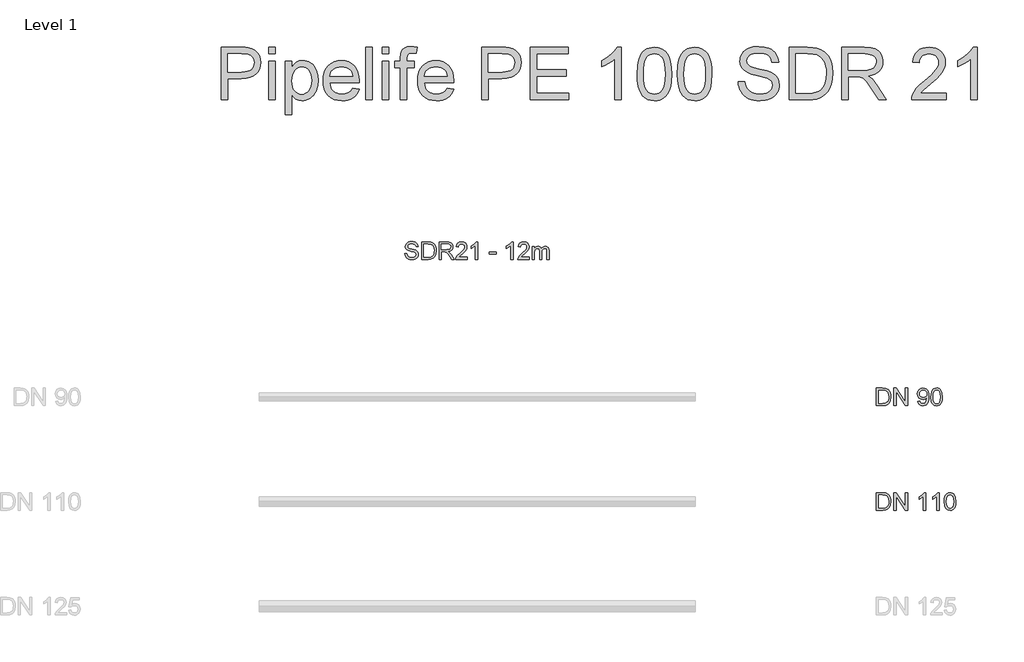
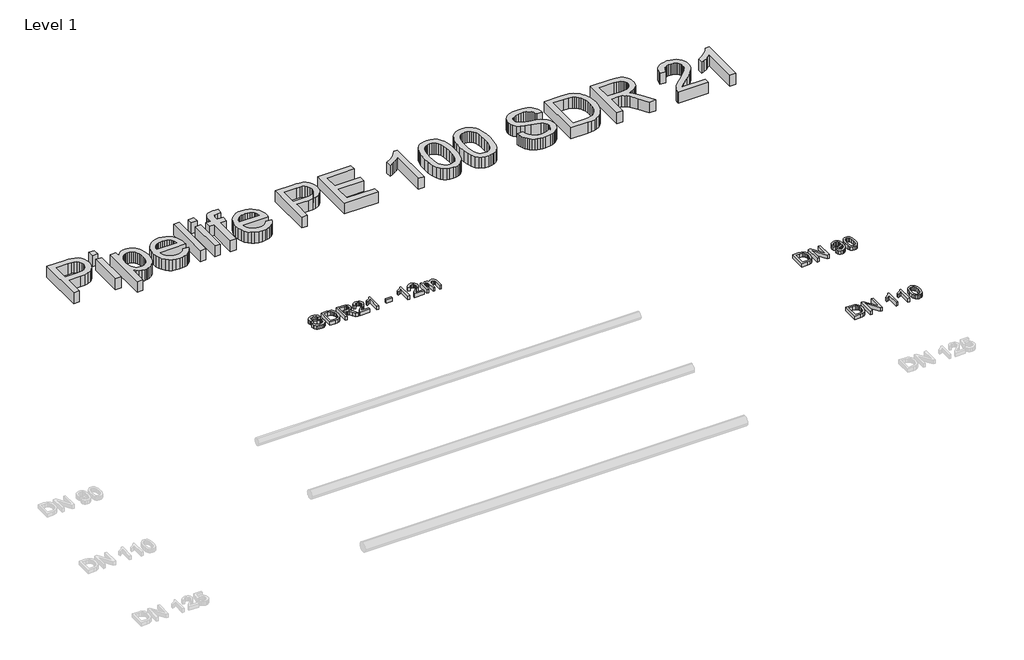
# One storey, part 10 of 26: 4 proxies.
"""IFC4 building model written with IfcOpenShell, lengths in millimetres."""

from ifc_helpers import new_model, si_unit, origin, origin_with_axes, place, context, project, spatial, polyline, outline, extrude, element, save

model = new_model("IFC4")

# Units and contexts
model_context = context("Model", 3, world=origin())
ifc_project = project(units=[si_unit("LENGTHUNIT", "METRE", prefix="MILLI")], contexts=[model_context])

# Site, building, storey
site = spatial("IfcSite", under=ifc_project)
building = spatial("IfcBuilding", under=site)
storey = spatial("IfcBuildingStorey", under=building, Name="Level 1", Elevation=0.0)

# Proxies
placement = place(None, origin())
element("IfcBuildingElementProxy", 1, Name="200mm Arial", ObjectType="200mm Arial", at=placement, inside=storey, context=model_context, shape_type="SweptSolid", body=[
    extrude(outline(polyline([(-9460.6923074, -70413.949573), (-9460.6923074, -70213.0369527), (-9391.3833395, -70213.0369527), (-9355.5271077, -70215.9309577), (-9339.5119782, -70221.5105013), (-9325.9984462, -70230.302881), (-9312.1047695, -70245.606772), (-9302.2087438, -70264.6385338), (-9296.2858437, -70287.0302846), (-9294.3115437, -70312.4141423), (-9299.6580953, -70352.9547382), (-9313.3923565, -70382.2136195), (-9331.7374053, -70400.436041), (-9355.7478369, -70410.5160077), (-9388.0478761, -70413.949573), (-9460.6923074, -70413.949573)]), holes=[polyline([(-9435.5782298, -70388.8354954), (-9391.1380848, -70388.8354954), (-9358.8135202, -70385.2057264), (-9340.1741658, -70374.9540815), (-9331.4492311, -70364.0831685), (-9324.8948002, -70350.0116822), (-9320.792916, -70332.6783089), (-9319.4256212, -70312.0217348), (-9322.1050284, -70284.6513144), (-9330.14325, -70264.4423301), (-9342.0197071, -70250.5609162), (-9356.2138207, -70242.1732067), (-9391.8247979, -70238.1510302), (-9435.5782298, -70238.1510302), (-9435.5782298, -70388.8354954)])]), origin_with_axes(), (0.0, 0.0, 1.0), 50.0),
    extrude(outline(polyline([(-9259.7796871, -70413.949573), (-9259.7796871, -70213.0369527), (-9232.899776, -70213.0369527), (-9127.93078, -70372.2072292), (-9127.93078, -70213.0369527), (-9102.8167025, -70213.0369527), (-9102.8167025, -70413.949573), (-9129.6966136, -70413.949573), (-9234.6656095, -70254.7302454), (-9234.6656095, -70413.949573), (-9259.7796871, -70413.949573)])), origin_with_axes(), (0.0, 0.0, 1.0), 50.0),
    extrude(outline(polyline([(-8986.6640939, -70363.7214179), (-8961.5500163, -70360.5821582), (-8957.2580597, -70374.8375855), (-8950.2683018, -70384.5435388), (-8940.7524209, -70390.116951), (-8928.8820951, -70391.9747551), (-8908.5504835, -70387.1922892), (-8894.7671715, -70374.4145212), (-8886.5511402, -70352.5868562), (-8882.9213712, -70323.4506021), (-8883.068524, -70318.5455089), (-8891.7689332, -70329.1650358), (-8903.1548809, -70337.5772708), (-8916.4047641, -70343.0587125), (-8930.6969797, -70344.8858597), (-8953.5976339, -70340.4222249), (-8972.6600526, -70327.0313202), (-8985.5175283, -70306.3440894), (-8989.8033535, -70279.9914758), (-8985.3090618, -70252.7682081), (-8971.8261867, -70231.4310524), (-8951.5742829, -70217.6354776), (-8926.772905, -70213.0369527), (-8908.0415801, -70215.6611776), (-8890.9902496, -70223.5338523), (-8876.728691, -70236.2625693), (-8866.3666814, -70253.4549212), (-8860.0575052, -70277.2200981), (-8857.9544465, -70309.6672901), (-8860.0513738, -70344.070388), (-8866.342156, -70370.6621249), (-8876.7716105, -70390.6442486), (-8891.2845552, -70405.2185069), (-8909.2555907, -70414.1212512), (-8930.0593175, -70417.0888326), (-8951.5313633, -70413.5878223), (-8968.6624016, -70403.0847914), (-8980.6430919, -70386.2419274), (-8986.6640939, -70363.7214179)]), holes=[polyline([(-8883.068524, -70279.4028646), (-8885.778588, -70262.3821909), (-8893.9087801, -70249.2855919), (-8906.5271326, -70240.9346706), (-8922.7016776, -70238.1510302), (-8939.4770966, -70241.1492685), (-8952.9170522, -70250.1439832), (-8961.74622, -70263.9089012), (-8964.689276, -70281.2177491), (-8961.9056356, -70296.7362379), (-8953.5547143, -70309.0541534), (-8940.4458525, -70317.092375), (-8923.3883907, -70319.7717822), (-8907.3426043, -70317.092375), (-8894.4238149, -70309.0541534), (-8885.9073467, -70296.2825168), (-8883.068524, -70279.4028646)])]), origin_with_axes(), (0.0, 0.0, 1.0), 50.0),
    extrude(outline(polyline([(-8835.9796286, -70315.1119436), (-8834.1340873, -70282.9529258), (-8828.5974633, -70257.3054194), (-8819.4249388, -70237.7770168), (-8806.6716963, -70223.9753106), (-8790.2457653, -70215.7715422), (-8770.0551751, -70213.0369527), (-8754.5796058, -70214.6556334), (-8740.7227173, -70219.5116758), (-8729.1344345, -70227.4150073), (-8720.4646821, -70238.1755557), (-8708.6924583, -70267.9004209), (-8704.1307216, -70315.1119436), (-8705.9578688, -70347.0870203), (-8711.4393105, -70372.6732131), (-8720.5566526, -70392.2200098), (-8733.291501, -70406.0768983), (-8749.7542203, -70414.335849), (-8770.0551751, -70417.0888326), (-8796.1502713, -70412.3063667), (-8815.9668481, -70397.9589689), (-8824.7224396, -70382.8298218), (-8830.9764335, -70363.9789353), (-8835.9796286, -70315.1119436)]), holes=[polyline([(-8810.8655511, -70315.0628927), (-8807.9224951, -70354.5672876), (-8799.0933272, -70377.4311536), (-8785.9476773, -70388.3388547), (-8770.0551751, -70391.9747551), (-8754.1626729, -70388.326592), (-8741.0170229, -70377.3821026), (-8732.1878551, -70354.5059739), (-8729.2447991, -70315.0628927), (-8732.0897532, -70276.4475459), (-8740.6246155, -70253.4058703), (-8753.74574, -70241.9647402), (-8770.3494807, -70238.1510302), (-8786.0703046, -70241.5110191), (-8798.7009198, -70251.5909857), (-8807.8243933, -70276.0674012), (-8810.8655511, -70315.0628927)])]), origin_with_axes(), (0.0, 0.0, 1.0), 50.0),
])
element("IfcBuildingElementProxy", 2, Name="200mm Arial", ObjectType="200mm Arial", at=placement, inside=storey, context=model_context, shape_type="SweptSolid", body=[
    extrude(outline(polyline([(-9460.6923074, -71613.949573), (-9460.6923074, -71413.0369527), (-9391.3833395, -71413.0369527), (-9355.5271077, -71415.9309577), (-9339.5119782, -71421.5105013), (-9325.9984462, -71430.302881), (-9312.1047695, -71445.606772), (-9302.2087438, -71464.6385338), (-9296.2858437, -71487.0302846), (-9294.3115437, -71512.4141423), (-9299.6580953, -71552.9547382), (-9313.3923565, -71582.2136195), (-9331.7374053, -71600.436041), (-9355.7478369, -71610.5160077), (-9388.0478761, -71613.949573), (-9460.6923074, -71613.949573)]), holes=[polyline([(-9435.5782298, -71588.8354954), (-9391.1380848, -71588.8354954), (-9358.8135202, -71585.2057264), (-9340.1741658, -71574.9540815), (-9331.4492311, -71564.0831685), (-9324.8948002, -71550.0116822), (-9320.792916, -71532.6783089), (-9319.4256212, -71512.0217348), (-9322.1050284, -71484.6513144), (-9330.14325, -71464.4423301), (-9342.0197071, -71450.5609162), (-9356.2138207, -71442.1732067), (-9391.8247979, -71438.1510302), (-9435.5782298, -71438.1510302), (-9435.5782298, -71588.8354954)])]), origin_with_axes(), (0.0, 0.0, 1.0), 50.0),
    extrude(outline(polyline([(-9259.7796871, -71613.949573), (-9259.7796871, -71413.0369527), (-9232.899776, -71413.0369527), (-9127.93078, -71572.2072292), (-9127.93078, -71413.0369527), (-9102.8167025, -71413.0369527), (-9102.8167025, -71613.949573), (-9129.6966136, -71613.949573), (-9234.6656095, -71454.7302454), (-9234.6656095, -71613.949573), (-9259.7796871, -71613.949573)])), origin_with_axes(), (0.0, 0.0, 1.0), 50.0),
    extrude(outline(polyline([(-8895.6255628, -71613.949573), (-8920.7396403, -71613.949573), (-8920.7396403, -71457.3789958), (-8944.5293427, -71474.3260931), (-8970.9677954, -71487.0057592), (-8970.9677954, -71463.2651077), (-8934.1550704, -71439.769711), (-8920.684458, -71426.1948653), (-8911.8123706, -71413.0369527), (-8895.6255628, -71413.0369527), (-8895.6255628, -71613.949573)])), origin_with_axes(), (0.0, 0.0, 1.0), 50.0),
    extrude(outline(polyline([(-8741.8018379, -71613.949573), (-8766.9159154, -71613.949573), (-8766.9159154, -71457.3789958), (-8790.7056178, -71474.3260931), (-8817.1440705, -71487.0057592), (-8817.1440705, -71463.2651077), (-8780.3313455, -71439.769711), (-8766.8607331, -71426.1948653), (-8757.9886457, -71413.0369527), (-8741.8018379, -71413.0369527), (-8741.8018379, -71613.949573)])), origin_with_axes(), (0.0, 0.0, 1.0), 50.0),
    extrude(outline(polyline([(-8682.1559037, -71515.1119436), (-8680.3103624, -71482.9529258), (-8674.7737383, -71457.3054194), (-8665.6012139, -71437.7770168), (-8652.8479714, -71423.9753106), (-8636.4220403, -71415.7715422), (-8616.2314502, -71413.0369527), (-8600.7558809, -71414.6556334), (-8586.8989924, -71419.5116758), (-8575.3107096, -71427.4150073), (-8566.6409572, -71438.1755557), (-8554.8687334, -71467.9004209), (-8550.3069966, -71515.1119436), (-8552.1341439, -71547.0870203), (-8557.6155856, -71572.6732131), (-8566.7329277, -71592.2200098), (-8579.4677761, -71606.0768983), (-8595.9304954, -71614.335849), (-8616.2314502, -71617.0888326), (-8642.3265464, -71612.3063667), (-8662.1431232, -71597.9589689), (-8670.8987147, -71582.8298218), (-8677.1527086, -71563.9789353), (-8682.1559037, -71515.1119436)]), holes=[polyline([(-8657.0418262, -71515.0628927), (-8654.0987702, -71554.5672876), (-8645.2696023, -71577.4311536), (-8632.1239524, -71588.3388547), (-8616.2314502, -71591.9747551), (-8600.338948, -71588.326592), (-8587.193298, -71577.3821026), (-8578.3641301, -71554.5059739), (-8575.4210742, -71515.0628927), (-8578.2660283, -71476.4475459), (-8586.8008906, -71453.4058703), (-8599.9220151, -71441.9647402), (-8616.5257558, -71438.1510302), (-8632.2465797, -71441.5110191), (-8644.8771949, -71451.5909857), (-8654.0006683, -71476.0674012), (-8657.0418262, -71515.0628927)])]), origin_with_axes(), (0.0, 0.0, 1.0), 50.0),
])
element("IfcBuildingElementProxy", 3, Name="200mm Arial", ObjectType="200mm Arial", at=placement, inside=storey, context=model_context, shape_type="SweptSolid", body=[
    extrude(outline(polyline([(-14863.0013138, -68668.9871574), (-14837.8872363, -68668.9871574), (-14829.7938324, -68694.1257604), (-14821.6636403, -68703.016242), (-14810.0263065, -68710.0182626), (-14795.801536, -68714.5616053), (-14779.9090338, -68716.0760528), (-14753.6667848, -68711.4897906), (-14736.7196876, -68698.8837009), (-14731.1524067, -68682.0347055), (-14735.321736, -68666.3629325), (-14741.6738318, -68660.1641209), (-14752.3914606, -68654.9585907), (-14788.9589309, -68645.3691333), (-14828.3223044, -68632.9837728), (-14840.8241609, -68624.5347497), (-14849.6839856, -68614.2953675), (-14854.9630922, -68602.4863554), (-14856.7227944, -68589.3284427), (-14854.5461593, -68574.6192943), (-14848.0162539, -68560.9034272), (-14837.3047564, -68549.2783562), (-14822.5833453, -68540.8415958), (-14804.9127468, -68535.7096419), (-14785.3536873, -68533.9989907), (-14764.1636844, -68535.7893497), (-14745.6224319, -68541.1604268), (-14730.3921173, -68550.0018575), (-14719.1349282, -68562.203277), (-14712.0102802, -68577.0043959), (-14709.1775889, -68593.6449248), (-14734.2916664, -68593.6449248), (-14738.9024541, -68578.6598649), (-14748.5164369, -68567.8441342), (-14763.538285, -68561.2958347), (-14784.3726687, -68559.1130682), (-14805.6975617, -68561.2713092), (-14820.3270024, -68567.7460324), (-14828.7882882, -68577.274176), (-14831.6087169, -68588.5926788), (-14829.6098914, -68598.2434498), (-14823.6134148, -68606.0057599), (-14809.4376953, -68612.9464668), (-14782.6068351, -68620.0343266), (-14738.1666901, -68632.6404163), (-14723.8499491, -68641.7516271), (-14713.861953, -68652.9965534), (-14707.9942351, -68666.2525679), (-14706.0383292, -68681.3970434), (-14708.2885407, -68696.878744), (-14715.0391753, -68711.4407397), (-14726.0143215, -68723.973253), (-14740.9380678, -68733.3665066), (-14758.8845778, -68739.2342244), (-14778.9280152, -68741.1901304), (-14803.5331893, -68739.0809402), (-14823.7850931, -68732.7533699), (-14839.9167186, -68722.1828939), (-14852.1610577, -68707.3449868), (-14860.0214696, -68689.2697181), (-14863.0013138, -68668.9871574)])), origin_with_axes(), (0.0, 0.0, 1.0), 50.0),
    extrude(outline(polyline([(-14668.3672129, -68738.0508707), (-14668.3672129, -68537.1382504), (-14599.058245, -68537.1382504), (-14563.2020132, -68540.0322554), (-14547.1868837, -68545.611799), (-14533.6733517, -68554.4041787), (-14519.779675, -68569.7080697), (-14509.8836494, -68588.7398315), (-14503.9607492, -68611.1315823), (-14501.9864492, -68636.51544), (-14507.3330009, -68677.0560359), (-14521.067262, -68706.3149172), (-14539.4123108, -68724.5373387), (-14563.4227424, -68734.6173054), (-14595.7227816, -68738.0508707), (-14668.3672129, -68738.0508707)]), holes=[polyline([(-14643.2531353, -68712.9367931), (-14598.8129903, -68712.9367931), (-14566.4884257, -68709.3070241), (-14547.8490713, -68699.0553792), (-14539.1241366, -68688.1844662), (-14532.5697057, -68674.1129799), (-14528.4678215, -68656.7796066), (-14527.1005267, -68636.1230325), (-14529.7799339, -68608.7526121), (-14537.8181555, -68588.5436278), (-14549.6946126, -68574.6622139), (-14563.8887263, -68566.2745044), (-14599.4997034, -68562.2523279), (-14643.2531353, -68562.2523279), (-14643.2531353, -68712.9367931)])]), origin_with_axes(), (0.0, 0.0, 1.0), 50.0),
    extrude(outline(polyline([(-14467.4545926, -68738.0508707), (-14467.4545926, -68537.1382504), (-14380.8796964, -68537.1382504), (-14357.6111602, -68538.4932824), (-14340.682457, -68542.5583784), (-14328.3093593, -68550.0631711), (-14318.7076392, -68561.7372931), (-14312.5456158, -68576.2134496), (-14310.491608, -68592.1243459), (-14313.8945164, -68611.9163972), (-14324.1032418, -68628.3239342), (-14341.4243524, -68640.3536755), (-14366.1644166, -68647.0123396), (-14351.8905952, -68657.7544938), (-14331.5344581, -68683.6043354), (-14298.0326711, -68738.0508707), (-14327.217976, -68738.0508707), (-14353.3621231, -68696.4066288), (-14372.2467322, -68668.8400046), (-14385.5150095, -68655.816982), (-14397.4589116, -68651.0345161), (-14412.0270386, -68650.1515993), (-14442.340515, -68650.1515993), (-14442.340515, -68738.0508707), (-14467.4545926, -68738.0508707)]), holes=[polyline([(-14442.340515, -68625.0375217), (-14386.1281462, -68625.0375217), (-14357.457876, -68621.4813291), (-14348.0278342, -68616.8582787), (-14341.1729664, -68610.1015127), (-14335.6056855, -68593.0563136), (-14338.2605672, -68580.8058432), (-14346.2252124, -68570.934343), (-14359.9288168, -68564.4228317), (-14379.8005759, -68562.2523279), (-14442.340515, -68562.2523279), (-14442.340515, -68625.0375217)])]), origin_with_axes(), (0.0, 0.0, 1.0), 50.0),
    extrude(outline(polyline([(-14147.250104, -68712.9367931), (-14147.250104, -68738.0508707), (-14279.0990111, -68738.0508707), (-14276.4012098, -68720.7358914), (-14261.1463697, -68694.0767095), (-14229.7047218, -68664.9649809), (-14186.3436973, -68623.1245354), (-14178.2135052, -68608.7035612), (-14175.5034412, -68594.6749944), (-14178.0602211, -68582.0995615), (-14185.7305607, -68571.6455815), (-14197.5211786, -68564.6006413), (-14212.4387935, -68562.2523279), (-14228.1044352, -68564.545459), (-14240.2751978, -68571.4248523), (-14248.1294784, -68582.3509476), (-14250.8456738, -68596.7841845), (-14275.9597514, -68593.6449248), (-14269.8713043, -68569.3524504), (-14256.7072603, -68551.6082755), (-14237.1543322, -68540.7557566), (-14211.8992333, -68537.1382504), (-14186.4601933, -68541.1604268), (-14166.9440535, -68553.2269563), (-14154.5280361, -68571.253174), (-14150.3893637, -68593.1544155), (-14154.8529985, -68616.9686433), (-14169.6909057, -68641.5922115), (-14205.6697648, -68676.0014408), (-14234.5607642, -68700.1590252), (-14245.8915296, -68712.9367931), (-14147.250104, -68712.9367931)])), origin_with_axes(), (0.0, 0.0, 1.0), 50.0),
    extrude(outline(polyline([(-14027.9582357, -68738.0508707), (-14053.0723132, -68738.0508707), (-14053.0723132, -68581.4802935), (-14076.8620156, -68598.4273908), (-14103.3004683, -68611.1070569), (-14103.3004683, -68587.3664054), (-14066.4877433, -68563.8710087), (-14053.0171309, -68550.2961631), (-14044.1450435, -68537.1382504), (-14027.9582357, -68537.1382504), (-14027.9582357, -68738.0508707)])), origin_with_axes(), (0.0, 0.0, 1.0), 50.0),
    extrude(outline(polyline([(-13896.1093286, -68678.4049365), (-13896.1093286, -68653.290859), (-13817.6278363, -68653.290859), (-13817.6278363, -68678.4049365), (-13896.1093286, -68678.4049365)])), origin_with_axes(), (0.0, 0.0, 1.0), 50.0),
    extrude(outline(polyline([(-13622.9937354, -68738.0508707), (-13648.1078129, -68738.0508707), (-13648.1078129, -68581.4802935), (-13671.8975153, -68598.4273908), (-13698.335968, -68611.1070569), (-13698.335968, -68587.3664054), (-13661.523243, -68563.8710087), (-13648.0526306, -68550.2961631), (-13639.1805432, -68537.1382504), (-13622.9937354, -68537.1382504), (-13622.9937354, -68738.0508707)])), origin_with_axes(), (0.0, 0.0, 1.0), 50.0),
    extrude(outline(polyline([(-13434.6381539, -68712.9367931), (-13434.6381539, -68738.0508707), (-13566.4870609, -68738.0508707), (-13563.7892596, -68720.7358914), (-13548.5344196, -68694.0767095), (-13517.0927717, -68664.9649809), (-13473.7317472, -68623.1245354), (-13465.6015551, -68608.7035612), (-13462.8914911, -68594.6749944), (-13465.448271, -68582.0995615), (-13473.1186106, -68571.6455815), (-13484.9092285, -68564.6006413), (-13499.8268434, -68562.2523279), (-13515.492485, -68564.545459), (-13527.6632477, -68571.4248523), (-13535.5175283, -68582.3509476), (-13538.2337237, -68596.7841845), (-13563.3478012, -68593.6449248), (-13557.2593542, -68569.3524504), (-13544.0953102, -68551.6082755), (-13524.5423821, -68540.7557566), (-13499.2872831, -68537.1382504), (-13473.8482432, -68541.1604268), (-13454.3321033, -68553.2269563), (-13441.916086, -68571.253174), (-13437.7774135, -68593.1544155), (-13442.2410484, -68616.9686433), (-13457.0789556, -68641.5922115), (-13493.0578147, -68676.0014408), (-13521.948814, -68700.1590252), (-13533.2795795, -68712.9367931), (-13434.6381539, -68712.9367931)])), origin_with_axes(), (0.0, 0.0, 1.0), 50.0),
    extrude(outline(polyline([(-13403.2455569, -68738.0508707), (-13403.2455569, -68590.5056651), (-13378.1314794, -68590.5056651), (-13378.1314794, -68614.7858768), (-13370.5776358, -68603.632921), (-13360.8655511, -68594.8957236), (-13349.3263192, -68589.248735), (-13336.2910338, -68587.3664054), (-13322.3237807, -68589.2855232), (-13311.1279053, -68595.0428764), (-13302.7647213, -68604.2583204), (-13297.2955423, -68616.5517104), (-13288.141412, -68603.7831395), (-13277.6996947, -68594.6627317), (-13265.9703904, -68589.190487), (-13252.9534992, -68587.3664054), (-13234.0750215, -68590.4014319), (-13220.1138997, -68599.5065113), (-13211.4870669, -68614.9268982), (-13208.611456, -68636.9078475), (-13208.611456, -68738.0508707), (-13233.7255336, -68738.0508707), (-13233.7255336, -68647.6990526), (-13236.0554529, -68626.7297789), (-13244.4922133, -68616.4045576), (-13258.8396111, -68612.480483), (-13272.4451135, -68614.9943433), (-13283.5367557, -68622.5359242), (-13290.9127897, -68635.6202605), (-13293.3714677, -68654.762387), (-13293.3714677, -68738.0508707), (-13318.4855452, -68738.0508707), (-13318.4855452, -68644.9031495), (-13319.9386791, -68630.7029045), (-13324.2980808, -68620.5738869), (-13331.9684204, -68614.5038339), (-13343.3543681, -68612.480483), (-13361.9446716, -68617.8760856), (-13369.3023115, -68624.5224869), (-13374.3055066, -68633.6704859), (-13378.1314794, -68663.6406058), (-13378.1314794, -68738.0508707), (-13403.2455569, -68738.0508707)])), origin_with_axes(), (0.0, 0.0, 1.0), 50.0),
])
element("IfcBuildingElementProxy", 4, Name="600mm Arial", ObjectType="600mm Arial", at=placement, inside=storey, context=model_context, shape_type="SweptSolid", body=[
    extrude(outline(polyline([(-16966.7426717, -66909.5373902), (-16966.7426717, -66306.7995293), (-16743.3647242, -66306.7995293), (-16691.3462101, -66308.2342691), (-16653.3072118, -66312.5384884), (-16613.152892, -66323.2622486), (-16580.0986947, -66340.7182492), (-16553.4824324, -66365.6974367), (-16532.6419174, -66398.9907573), (-16519.1774363, -66438.2621602), (-16514.689276, -66481.175595), (-16517.7197039, -66518.1753266), (-16526.8109877, -66552.2136083), (-16541.9631274, -66583.2904398), (-16563.176123, -66611.4058213), (-16592.2985814, -66634.7111457), (-16631.1791098, -66651.357806), (-16679.8177081, -66661.3458021), (-16738.2143763, -66664.6751342), (-16891.4004391, -66664.6751342), (-16891.4004391, -66909.5373902), (-16966.7426717, -66909.5373902)]), holes=[polyline([(-16891.4004391, -66589.3329016), (-16733.7997923, -66589.3329016), (-16697.5634158, -66587.6038562), (-16666.992422, -66582.4167201), (-16642.0868109, -66573.7714932), (-16622.8465826, -66561.6681755), (-16608.4899877, -66546.4286639), (-16598.2352771, -66528.374855), (-16592.0824507, -66507.5067488), (-16590.0315086, -66483.8243453), (-16594.8691569, -66449.9792018), (-16609.3821016, -66421.431559), (-16631.767721, -66399.9472504), (-16660.2233933, -66387.2921098), (-16689.2860709, -66383.4293489), (-16735.5656259, -66382.1417619), (-16891.4004391, -66382.1417619), (-16891.4004391, -66589.3329016)])]), origin_with_axes(), (0.0, 0.0, 1.0), 150.0),
    extrude(outline(polyline([(-16420.5114852, -66909.5373902), (-16420.5114852, -66466.9017736), (-16345.1692526, -66466.9017736), (-16345.1692526, -66909.5373902), (-16420.5114852, -66909.5373902)])), origin_with_axes(), (0.0, 0.0, 1.0), 150.0),
    extrude(outline(polyline([(-16420.5114852, -66382.1417619), (-16420.5114852, -66306.7995293), (-16345.1692526, -66306.7995293), (-16345.1692526, -66382.1417619), (-16420.5114852, -66382.1417619)])), origin_with_axes(), (0.0, 0.0, 1.0), 150.0),
    extrude(outline(polyline([(-16232.1559037, -67079.0574135), (-16232.1559037, -66466.9017736), (-16156.8136711, -66466.9017736), (-16156.8136711, -66540.7724782), (-16132.2391538, -66504.3337666), (-16104.7215806, -66478.3061154), (-16072.6422706, -66462.6895247), (-16034.3825431, -66457.4839945), (-16008.1065716, -66459.3050104), (-15983.4308868, -66464.768058), (-15960.3554886, -66473.8731374), (-15938.8803772, -66486.6202485), (-15919.4746019, -66502.6782976), (-15902.6072124, -66521.7161909), (-15888.2782087, -66543.7339283), (-15876.4875908, -66568.7315098), (-15860.7054532, -66624.2449029), (-15855.4447407, -66684.8350675), (-15861.3860349, -66749.269599), (-15868.8126527, -66778.9346834), (-15879.2099175, -66806.8983135), (-15892.4352753, -66832.429324), (-15908.3461716, -66854.7965493), (-15926.9426064, -66873.9999894), (-15948.2245798, -66890.0396444), (-15971.1482267, -66902.6901865), (-15994.6696817, -66911.726288), (-16018.788945, -66917.1479489), (-16043.5060166, -66918.9551692), (-16078.1421064, -66914.117521), (-16109.0625881, -66899.6045763), (-16135.5316977, -66877.6972035), (-16156.8136711, -66850.6762709), (-16156.8136711, -67079.0574135), (-16232.1559037, -67079.0574135)]), holes=[polyline([(-16156.8136711, -66691.751249), (-16154.7765246, -66728.0612019), (-16148.6650849, -66759.2943833), (-16138.4793522, -66785.4507932), (-16124.2193263, -66806.5304315), (-16107.0530327, -66822.7540275), (-16088.1484967, -66834.3423104), (-16067.5057182, -66841.2952801), (-16045.1246974, -66843.6129366), (-16022.4217797, -66841.2125066), (-16001.4019222, -66834.0112166), (-15982.0651249, -66822.0090665), (-15964.4113876, -66805.2060563), (-15949.7007063, -66783.3630629), (-15939.1930769, -66756.2409628), (-15932.8884992, -66723.8397561), (-15930.7869733, -66686.1594427), (-15932.8379154, -66650.1621895), (-15938.9907418, -66618.9841904), (-15949.2454524, -66592.6254454), (-15963.6020472, -66571.0859546), (-15980.8097276, -66554.3473238), (-15999.6176946, -66542.391159), (-16020.0259482, -66535.2174601), (-16042.0344886, -66532.8262271), (-16063.9740511, -66535.3692114), (-16084.6168295, -66542.9981643), (-16103.962824, -66555.7130857), (-16122.0120344, -66573.5139758), (-16137.2377504, -66596.1617111), (-16148.1132619, -66623.4171684), (-16154.6385688, -66655.2803477), (-16156.8136711, -66691.751249)])]), origin_with_axes(), (0.0, 0.0, 1.0), 150.0),
    extrude(outline(polyline([(-15460.7809362, -66777.6884831), (-15386.9102316, -66787.1062622), (-15398.2363985, -66816.6931716), (-15413.5264939, -66842.766808), (-15432.7805179, -66865.3271714), (-15455.9984703, -66884.3742617), (-15482.9412279, -66899.5034087), (-15513.3696674, -66910.3099424), (-15547.2837889, -66916.7938625), (-15584.6835922, -66918.9551692), (-15631.4321967, -66915.2257655), (-15673.0856356, -66904.0375543), (-15709.6439089, -66885.3905357), (-15741.1070165, -66859.2847096), (-15766.4081008, -66826.446643), (-15784.4803038, -66787.6029029), (-15795.3236256, -66742.7534891), (-15798.9380662, -66691.8984018), (-15795.2868374, -66639.3188677), (-15784.333151, -66592.9749333), (-15766.077007, -66552.8665988), (-15740.5184054, -66518.9938641), (-15709.1380712, -66492.0832961), (-15673.4167294, -66472.8614619), (-15633.3543802, -66461.3283613), (-15588.9510233, -66457.4839945), (-15545.9778078, -66461.3191643), (-15507.1156735, -66472.8246737), (-15472.3646205, -66492.0005227), (-15441.7246489, -66518.8467113), (-15416.7132717, -66552.6458696), (-15398.8480023, -66592.6806277), (-15388.1288407, -66638.9509857), (-15384.5557868, -66691.4569434), (-15384.9972452, -66711.7640296), (-15723.5958336, -66711.7640296), (-15719.2318334, -66741.8291856), (-15710.5544168, -66768.1603394), (-15697.5635839, -66790.757491), (-15680.2593345, -66809.6206403), (-15659.598162, -66824.4922699), (-15636.5365594, -66835.1148625), (-15611.0745268, -66841.4884181), (-15583.2120642, -66843.6129366), (-15543.1129267, -66839.6765993), (-15509.3413596, -66827.8675872), (-15481.8973627, -66807.4501365), (-15460.7809362, -66777.6884831)]), holes=[polyline([(-15723.5958336, -66636.4217969), (-15459.8980194, -66636.4217969), (-15470.0883507, -66596.6169651), (-15478.8531392, -66580.9635862), (-15490.064343, -66568.1428986), (-15510.6105525, -66552.6918548), (-15533.9894533, -66541.655395), (-15560.2010454, -66535.0335191), (-15589.2453289, -66532.8262271), (-15615.7374311, -66534.5874622), (-15640.0314384, -66539.8711673), (-15662.1273507, -66548.6773426), (-15682.0251681, -66561.0059879), (-15698.7224122, -66576.2868863), (-15711.2166044, -66593.9498206), (-15719.5077449, -66613.9947908), (-15723.5958336, -66636.4217969)])]), origin_with_axes(), (0.0, 0.0, 1.0), 150.0),
    extrude(outline(polyline([(-15309.2135542, -66909.5373902), (-15309.2135542, -66306.7995293), (-15233.8713216, -66306.7995293), (-15233.8713216, -66909.5373902), (-15309.2135542, -66909.5373902)])), origin_with_axes(), (0.0, 0.0, 1.0), 150.0),
    extrude(outline(polyline([(-15120.8579727, -66382.1417619), (-15120.8579727, -66306.7995293), (-15045.5157401, -66306.7995293), (-15045.5157401, -66382.1417619), (-15120.8579727, -66382.1417619)])), origin_with_axes(), (0.0, 0.0, 1.0), 150.0),
    extrude(outline(polyline([(-15120.8579727, -66909.5373902), (-15120.8579727, -66466.9017736), (-15045.5157401, -66466.9017736), (-15045.5157401, -66909.5373902), (-15120.8579727, -66909.5373902)])), origin_with_axes(), (0.0, 0.0, 1.0), 150.0),
    extrude(outline(polyline([(-14913.666833, -66909.5373902), (-14913.666833, -66542.2440062), (-14979.5912865, -66542.2440062), (-14979.5912865, -66466.9017736), (-14913.666833, -66466.9017736), (-14913.666833, -66422.3144758), (-14911.6802702, -66385.4159116), (-14905.7205819, -66359.480231), (-14890.5638437, -66334.4274671), (-14867.1665488, -66314.5986276), (-14834.4250512, -66301.6859695), (-14791.235705, -66297.3817502), (-14758.5309956, -66299.4418894), (-14722.5153483, -66305.6223069), (-14733.5518082, -66376.25565), (-14776.9618836, -66372.7239828), (-14805.6014969, -66375.8509798), (-14824.418661, -66385.2319706), (-14834.8481155, -66403.1478238), (-14838.3246004, -66431.8794076), (-14838.3246004, -66466.9017736), (-14753.5645887, -66466.9017736), (-14753.5645887, -66542.2440062), (-14838.3246004, -66542.2440062), (-14838.3246004, -66909.5373902), (-14913.666833, -66909.5373902)])), origin_with_axes(), (0.0, 0.0, 1.0), 150.0),
    extrude(outline(polyline([(-14377.7363424, -66777.6884831), (-14303.8656378, -66787.1062622), (-14315.1918047, -66816.6931716), (-14330.4819001, -66842.766808), (-14349.7359241, -66865.3271714), (-14372.9538765, -66884.3742617), (-14399.8966341, -66899.5034087), (-14430.3250736, -66910.3099424), (-14464.2391951, -66916.7938625), (-14501.6389984, -66918.9551692), (-14548.3876029, -66915.2257655), (-14590.0410418, -66904.0375543), (-14626.5993151, -66885.3905357), (-14658.0624227, -66859.2847096), (-14683.363507, -66826.446643), (-14701.43571, -66787.6029029), (-14712.2790318, -66742.7534891), (-14715.8934724, -66691.8984018), (-14712.2422436, -66639.3188677), (-14701.2885572, -66592.9749333), (-14683.0324132, -66552.8665988), (-14657.4738116, -66518.9938641), (-14626.0934774, -66492.0832961), (-14590.3721356, -66472.8614619), (-14550.3097864, -66461.3283613), (-14505.9064295, -66457.4839945), (-14462.933214, -66461.3191643), (-14424.0710797, -66472.8246737), (-14389.3200267, -66492.0005227), (-14358.6800551, -66518.8467113), (-14333.6686779, -66552.6458696), (-14315.8034085, -66592.6806277), (-14305.0842469, -66638.9509857), (-14301.511193, -66691.4569434), (-14301.9526514, -66711.7640296), (-14640.5512398, -66711.7640296), (-14636.1872396, -66741.8291856), (-14627.509823, -66768.1603394), (-14614.5189901, -66790.757491), (-14597.2147407, -66809.6206403), (-14576.5535682, -66824.4922699), (-14553.4919656, -66835.1148625), (-14528.029933, -66841.4884181), (-14500.1674704, -66843.6129366), (-14460.0683329, -66839.6765993), (-14426.2967658, -66827.8675872), (-14398.8527689, -66807.4501365), (-14377.7363424, -66777.6884831)]), holes=[polyline([(-14640.5512398, -66636.4217969), (-14376.8534256, -66636.4217969), (-14387.0437569, -66596.6169651), (-14395.8085454, -66580.9635862), (-14407.0197492, -66568.1428986), (-14427.5659587, -66552.6918548), (-14450.9448595, -66541.655395), (-14477.1564516, -66535.0335191), (-14506.2007351, -66532.8262271), (-14532.6928373, -66534.5874622), (-14556.9868446, -66539.8711673), (-14579.0827569, -66548.6773426), (-14598.9805743, -66561.0059879), (-14615.6778184, -66576.2868863), (-14628.1720106, -66593.9498206), (-14636.4631511, -66613.9947908), (-14640.5512398, -66636.4217969)])]), origin_with_axes(), (0.0, 0.0, 1.0), 150.0),
    extrude(outline(polyline([(-13981.3067044, -66909.5373902), (-13981.3067044, -66306.7995293), (-13757.928757, -66306.7995293), (-13705.9102428, -66308.2342691), (-13667.8712445, -66312.5384884), (-13627.7169248, -66323.2622486), (-13594.6627275, -66340.7182492), (-13568.0464651, -66365.6974367), (-13547.2059501, -66398.9907573), (-13533.7414691, -66438.2621602), (-13529.2533087, -66481.175595), (-13532.2837367, -66518.1753266), (-13541.3750205, -66552.2136083), (-13556.5271602, -66583.2904398), (-13577.7401557, -66611.4058213), (-13606.8626142, -66634.7111457), (-13645.7431425, -66651.357806), (-13694.3817408, -66661.3458021), (-13752.778409, -66664.6751342), (-13905.9644718, -66664.6751342), (-13905.9644718, -66909.5373902), (-13981.3067044, -66909.5373902)]), holes=[polyline([(-13905.9644718, -66589.3329016), (-13748.3638251, -66589.3329016), (-13712.1274486, -66587.6038562), (-13681.5564548, -66582.4167201), (-13656.6508437, -66573.7714932), (-13637.4106153, -66561.6681755), (-13623.0540205, -66546.4286639), (-13612.7993099, -66528.374855), (-13606.6464835, -66507.5067488), (-13604.5955414, -66483.8243453), (-13609.4331896, -66449.9792018), (-13623.9461343, -66421.431559), (-13646.3317537, -66399.9472504), (-13674.787426, -66387.2921098), (-13703.8501037, -66383.4293489), (-13750.1296587, -66382.1417619), (-13905.9644718, -66382.1417619), (-13905.9644718, -66589.3329016)])]), origin_with_axes(), (0.0, 0.0, 1.0), 150.0),
    extrude(outline(polyline([(-13425.6577389, -66909.5373902), (-13425.6577389, -66306.7995293), (-12992.4399014, -66306.7995293), (-12992.4399014, -66382.1417619), (-13350.3155063, -66382.1417619), (-13350.3155063, -66561.0795643), (-13011.2754595, -66561.0795643), (-13011.2754595, -66636.4217969), (-13350.3155063, -66636.4217969), (-13350.3155063, -66834.1951576), (-12983.0221223, -66834.1951576), (-12983.0221223, -66909.5373902), (-13425.6577389, -66909.5373902)])), origin_with_axes(), (0.0, 0.0, 1.0), 150.0),
    extrude(outline(polyline([(-12380.2842614, -66909.5373902), (-12455.626494, -66909.5373902), (-12455.626494, -66439.8256587), (-12487.0804046, -66465.2646987), (-12526.9956011, -66490.6669505), (-12568.8973603, -66512.8686289), (-12606.3109592, -66528.7059488), (-12606.3109592, -66457.4839945), (-12547.1371403, -66425.2943199), (-12495.8727843, -66386.9978042), (-12455.4609471, -66346.2732674), (-12428.8446848, -66306.7995293), (-12380.2842614, -66306.7995293), (-12380.2842614, -66909.5373902)])), origin_with_axes(), (0.0, 0.0, 1.0), 150.0),
    extrude(outline(polyline([(-12201.346459, -66613.0245021), (-12195.8098349, -66516.5474488), (-12188.8890549, -66475.6343724), (-12179.1999628, -66439.6049295), (-12166.7839455, -66408.1648145), (-12151.6823896, -66381.0197218), (-12133.8952951, -66358.1696514), (-12113.4226621, -66339.6146032), (-12090.1955126, -66325.2580084), (-12064.1448689, -66315.0032978), (-12035.2707308, -66308.8504714), (-12003.5730984, -66306.7995293), (-11957.1463906, -66311.6555716), (-11915.5757251, -66326.2236986), (-11880.8108766, -66349.9336932), (-11854.8016195, -66382.2153383), (-11835.156721, -66422.7927223), (-11819.484948, -66471.3899339), (-11809.2210403, -66533.1021386), (-11805.7997377, -66613.0245021), (-11811.2811795, -66708.9497323), (-11818.1329816, -66749.7248529), (-11827.7255047, -66785.7083106), (-11840.044953, -66817.1622212), (-11855.077531, -66844.3487006), (-11872.8232387, -66867.2677489), (-11893.2820762, -66885.9193661), (-11916.5368168, -66900.37253), (-11942.670234, -66910.6962185), (-11971.6823279, -66916.8904315), (-12003.5730984, -66918.9551692), (-12045.0701874, -66915.3683198), (-12081.8583869, -66904.6077714), (-12113.9376969, -66886.6735242), (-12141.3081173, -66861.565578), (-12167.5748918, -66816.1781368), (-12186.3368736, -66759.6254771), (-12197.5940626, -66691.9075989), (-12201.346459, -66613.0245021)]), holes=[polyline([(-12126.0042263, -66612.8773493), (-12123.7969344, -66678.37414), (-12117.1750585, -66731.390534), (-12106.1385986, -66771.9265313), (-12090.6875548, -66799.982132), (-12071.9991495, -66819.070609), (-12051.2506049, -66832.7052355), (-12028.4419212, -66840.8860113), (-12003.5730984, -66843.6129366), (-11978.7042755, -66840.8768143), (-11955.8955918, -66832.6684473), (-11935.1470472, -66818.9878356), (-11916.4586419, -66799.8349792), (-11901.0075981, -66771.7333933), (-11889.9711382, -66731.206593), (-11883.3492623, -66678.2545783), (-11881.1419704, -66612.8773493), (-11883.2756859, -66549.1142024), (-11889.6768326, -66497.031309), (-11900.3454105, -66456.6286689), (-11915.2814195, -66427.9062821), (-11933.6571252, -66407.8843045), (-11954.644793, -66393.5828919), (-11978.244423, -66385.0020444), (-12004.4560151, -66382.1417619), (-12029.1960793, -66384.6617535), (-12051.6184869, -66392.2217286), (-12071.723238, -66404.8216869), (-12089.5103324, -66422.4616286), (-12105.476411, -66453.7315981), (-12116.8807529, -66495.8908748), (-12123.723358, -66548.9394585), (-12126.0042263, -66612.8773493)])]), origin_with_axes(), (0.0, 0.0, 1.0), 150.0),
    extrude(outline(polyline([(-11739.8752842, -66613.0245021), (-11734.3386602, -66516.5474488), (-11727.4178801, -66475.6343724), (-11717.7287881, -66439.6049295), (-11705.3127708, -66408.1648145), (-11690.2112149, -66381.0197218), (-11672.4241204, -66358.1696514), (-11651.9514874, -66339.6146032), (-11628.7243379, -66325.2580084), (-11602.6736941, -66315.0032978), (-11573.799556, -66308.8504714), (-11542.1019236, -66306.7995293), (-11495.6752158, -66311.6555716), (-11454.1045504, -66326.2236986), (-11419.3397018, -66349.9336932), (-11393.3304448, -66382.2153383), (-11373.6855462, -66422.7927223), (-11358.0137732, -66471.3899339), (-11347.7498655, -66533.1021386), (-11344.328563, -66613.0245021), (-11349.8100047, -66708.9497323), (-11356.6618069, -66749.7248529), (-11366.2543299, -66785.7083106), (-11378.5737782, -66817.1622212), (-11393.6063562, -66844.3487006), (-11411.352064, -66867.2677489), (-11431.8109014, -66885.9193661), (-11455.0656421, -66900.37253), (-11481.1990593, -66910.6962185), (-11510.2111531, -66916.8904315), (-11542.1019236, -66918.9551692), (-11583.5990127, -66915.3683198), (-11620.3872122, -66904.6077714), (-11652.4665222, -66886.6735242), (-11679.8369426, -66861.565578), (-11706.1037171, -66816.1781368), (-11724.8656988, -66759.6254771), (-11736.1228879, -66691.9075989), (-11739.8752842, -66613.0245021)]), holes=[polyline([(-11664.5330516, -66612.8773493), (-11662.3257596, -66678.37414), (-11655.7038837, -66731.390534), (-11644.6674239, -66771.9265313), (-11629.2163801, -66799.982132), (-11610.5279747, -66819.070609), (-11589.7794302, -66832.7052355), (-11566.9707465, -66840.8860113), (-11542.1019236, -66843.6129366), (-11517.2331007, -66840.8768143), (-11494.424417, -66832.6684473), (-11473.6758725, -66818.9878356), (-11454.9874671, -66799.8349792), (-11439.5364233, -66771.7333933), (-11428.4999635, -66731.206593), (-11421.8780876, -66678.2545783), (-11419.6707956, -66612.8773493), (-11421.8045112, -66549.1142024), (-11428.2056579, -66497.031309), (-11438.8742358, -66456.6286689), (-11453.8102448, -66427.9062821), (-11472.1859504, -66407.8843045), (-11493.1736182, -66393.5828919), (-11516.7732482, -66385.0020444), (-11542.9848404, -66382.1417619), (-11567.7249046, -66384.6617535), (-11590.1473122, -66392.2217286), (-11610.2520632, -66404.8216869), (-11628.0391577, -66422.4616286), (-11644.0052363, -66453.7315981), (-11655.4095781, -66495.8908748), (-11662.2521832, -66548.9394585), (-11664.5330516, -66612.8773493)])]), origin_with_axes(), (0.0, 0.0, 1.0), 150.0),
    extrude(outline(polyline([(-11042.9596325, -66702.3462505), (-10967.6173999, -66702.3462505), (-10958.972173, -66744.1560392), (-10943.3371883, -66777.7620595), (-10918.946612, -66804.4335041), (-10884.0346106, -66825.4395661), (-10841.3602992, -66839.069594), (-10793.6827926, -66843.6129366), (-10751.707457, -66840.17324), (-10714.9560456, -66829.85415), (-10685.1759981, -66813.5201894), (-10664.1147539, -66792.0358809), (-10651.588372, -66767.3693931), (-10647.4129113, -66741.4888948), (-10650.5399083, -66716.270584), (-10659.9208992, -66694.4735758), (-10678.9771865, -66675.8771409), (-10711.1300729, -66660.2605502), (-10820.8324839, -66631.4921782), (-10892.8453844, -66612.454285), (-10938.9226043, -66594.3360967), (-10976.4281737, -66568.9890272), (-11003.0076479, -66538.2708806), (-11018.8449678, -66502.8438445), (-11024.1240744, -66463.3701064), (-11022.491598, -66440.9339032), (-11017.594169, -66419.2426611), (-11009.4317872, -66398.29638), (-10998.0044527, -66378.0950599), (-10983.4409243, -66359.4618369), (-10965.8699605, -66343.2198468), (-10945.2915614, -66329.3690897), (-10921.7057269, -66317.9095655), (-10868.6939314, -66302.513704), (-10810.0167532, -66297.3817502), (-10746.4467444, -66302.7528273), (-10690.8229868, -66318.8660587), (-10666.4875928, -66330.8682088), (-10645.132043, -66345.3903506), (-10626.7563373, -66362.432484), (-10611.3604758, -66381.9946091), (-10599.0640201, -66403.5065088), (-10589.9865319, -66426.3979659), (-10584.1280111, -66450.6689805), (-10581.4884578, -66476.3195526), (-10656.8306904, -66476.3195526), (-10661.8706737, -66452.2784643), (-10670.6630534, -66431.3643728), (-10683.2078295, -66413.5772784), (-10699.5050018, -66398.9171809), (-10719.8580732, -66387.4576567), (-10744.5705463, -66379.2722823), (-10773.6424209, -66374.3610577), (-10807.0736972, -66372.7239828), (-10841.5718313, -66374.3426636), (-10871.0483762, -66379.1987059), (-10895.5033318, -66387.2921098), (-10914.9366982, -66398.6228753), (-10929.7439485, -66412.2437061), (-10940.3205559, -66427.2073063), (-10946.6665203, -66443.5136757), (-10948.7818418, -66461.1628144), (-10947.2827227, -66476.3471438), (-10942.7853653, -66490.1151275), (-10935.2897696, -66502.4667655), (-10924.7959357, -66513.4020578), (-10908.2780341, -66523.7579359), (-10882.2687771, -66534.2241787), (-10801.7761965, -66555.487758), (-10718.708442, -66575.6844795), (-10668.4557615, -66593.3060271), (-10625.5055385, -66620.6396594), (-10608.900265, -66636.7069055), (-10595.54155, -66654.3744383), (-10585.2730438, -66673.5502873), (-10577.9383965, -66694.142482), (-10572.0706787, -66739.5759084), (-10573.7583374, -66763.1433487), (-10578.8213133, -66786.0210103), (-10587.2596066, -66808.2088931), (-10599.0732172, -66829.7069972), (-10614.0552114, -66849.6829896), (-10631.9986557, -66867.3045371), (-10652.9035501, -66882.5716399), (-10676.7698945, -66895.484298), (-10702.9033118, -66905.7528041), (-10730.6094245, -66913.0874514), (-10790.7397367, -66918.9551692), (-10829.2799742, -66917.3732767), (-10864.555259, -66912.6275989), (-10896.5655911, -66904.718136), (-10925.3109705, -66893.644888), (-10950.9661411, -66879.3894607), (-10973.705847, -66861.93346), (-10993.530088, -66841.276886), (-11010.4388642, -66817.4197386), (-11024.059695, -66791.13457), (-11034.0201001, -66763.1939325), (-11040.3200792, -66733.597826), (-11042.9596325, -66702.3462505)])), origin_with_axes(), (0.0, 0.0, 1.0), 150.0),
    extrude(outline(polyline([(-10459.0573298, -66909.5373902), (-10459.0573298, -66306.7995293), (-10251.1304261, -66306.7995293), (-10188.9951571, -66308.970033), (-10143.5617307, -66315.4815444), (-10095.5163422, -66332.2201751), (-10054.9757463, -66358.5973142), (-10032.6361121, -66380.1551991), (-10013.2947162, -66404.5089872), (-9996.9515586, -66431.6586784), (-9983.6066392, -66461.6042728), (-9973.241564, -66494.0698589), (-9965.8379389, -66528.7795252), (-9959.9150387, -66604.9310982), (-9963.9249525, -66669.623147), (-9975.9546937, -66726.5528858), (-9994.2752171, -66775.0213386), (-10017.1574772, -66814.3295298), (-10043.497828, -66845.3603761), (-10072.1926237, -66868.9967943), (-10105.1364563, -66886.5263714), (-10144.2239183, -66899.2366943), (-10189.528586, -66906.9622162), (-10241.1240359, -66909.5373902), (-10459.0573298, -66909.5373902)]), holes=[polyline([(-10383.7150972, -66834.1951576), (-10250.3946621, -66834.1951576), (-10195.2491511, -66831.4728308), (-10153.4209682, -66823.3058505), (-10121.856693, -66810.1724633), (-10097.5029049, -66792.5509157), (-10071.328101, -66759.9381768), (-10051.6648083, -66717.7237179), (-10039.3591556, -66665.7235979), (-10035.2572714, -66603.7538758), (-10037.2668268, -66560.0127066), (-10043.295493, -66521.6426145), (-10053.3432699, -66488.6435995), (-10067.4101577, -66461.0156616), (-10084.3557221, -66438.1334015), (-10103.039529, -66419.3714198), (-10123.4615782, -66404.7297164), (-10145.6218699, -66394.2082913), (-10188.9583689, -66385.1583942), (-10252.4548013, -66382.1417619), (-10383.7150972, -66382.1417619), (-10383.7150972, -66834.1951576)])]), origin_with_axes(), (0.0, 0.0, 1.0), 150.0),
    extrude(outline(polyline([(-9856.3194689, -66909.5373902), (-9856.3194689, -66306.7995293), (-9596.5947803, -66306.7995293), (-9526.7891717, -66310.8646253), (-9476.0030623, -66323.0599135), (-9456.404149, -66332.753604), (-9438.883769, -66345.5742916), (-9423.4419222, -66361.5219761), (-9410.0786088, -66380.5966575), (-9399.2950678, -66401.7728649), (-9391.5925385, -66424.025127), (-9386.9710209, -66447.3534441), (-9385.4305151, -66471.7578159), (-9387.9826964, -66502.7150858), (-9395.6392404, -66531.1339699), (-9408.4001472, -66557.0144683), (-9426.2654165, -66580.3565809), (-9449.4649749, -66600.4153467), (-9478.2287484, -66616.4458046), (-9512.556737, -66628.4479547), (-9552.4489409, -66636.4217969), (-9527.6169062, -66652.6453929), (-9509.6274766, -66668.6482597), (-9478.7621773, -66705.2525182), (-9448.5590654, -66746.1977843), (-9348.0537044, -66909.5373902), (-9435.6096192, -66909.5373902), (-9514.0420606, -66784.6046646), (-9570.6958878, -66701.9047921), (-9591.7571321, -66677.7901273), (-9610.5007197, -66662.8357242), (-9646.3324261, -66648.4883264), (-9690.0368071, -66645.839576), (-9780.9772363, -66645.839576), (-9780.9772363, -66909.5373902), (-9856.3194689, -66909.5373902)]), holes=[polyline([(-9780.9772363, -66570.4973434), (-9612.3401297, -66570.4973434), (-9563.908465, -66567.8301989), (-9526.3293192, -66559.8287656), (-9498.0391938, -66545.9596143), (-9477.4745903, -66525.6893164), (-9464.9482083, -66501.1699814), (-9460.7727477, -66474.5537191), (-9462.763909, -66455.2858996), (-9468.7373929, -66437.8023078), (-9478.6931994, -66422.1029436), (-9492.6313285, -66408.1878071), (-9510.8736769, -66396.7926623), (-9533.7421414, -66388.6532732), (-9561.236722, -66383.7696397), (-9593.3574188, -66382.1417619), (-9780.9772363, -66382.1417619), (-9780.9772363, -66570.4973434)])]), origin_with_axes(), (0.0, 0.0, 1.0), 150.0),
    extrude(outline(polyline([(-8660.2615262, -66834.1951576), (-8660.2615262, -66909.5373902), (-9055.8082474, -66909.5373902), (-9054.1527784, -66883.0130983), (-9047.7148435, -66857.5924524), (-9029.1368027, -66816.9966743), (-9001.9503233, -66777.6149067), (-8962.623738, -66736.3937291), (-8907.6253797, -66690.279721), (-8826.3234588, -66618.0644854), (-8777.5423062, -66564.7583843), (-8763.3144701, -66542.9797702), (-8753.15173, -66521.4954617), (-8747.0540859, -66500.3054587), (-8745.0215379, -66479.4097614), (-8746.9391228, -66459.7510673), (-8752.6918775, -66441.6834628), (-8762.279802, -66425.2069479), (-8775.7028963, -66410.3215227), (-8792.2161993, -66397.9928774), (-8811.0747501, -66389.1867021), (-8832.2785486, -66383.9029969), (-8855.8275948, -66382.1417619), (-8880.6366369, -66383.8616102), (-8902.8245197, -66389.0211552), (-8922.3912433, -66397.6203968), (-8939.3368077, -66409.6593351), (-8953.0450106, -66424.7332999), (-8962.8996495, -66442.4376209), (-8968.9007246, -66462.7722982), (-8971.0482357, -66485.7373317), (-9046.3904683, -66476.3195526), (-9039.9111467, -66437.4252287), (-9028.1251273, -66403.4421294), (-9011.0324101, -66374.3702547), (-8988.6329951, -66350.2096047), (-8961.4419171, -66331.2176967), (-8929.9742109, -66317.6520481), (-8894.2298766, -66309.512659), (-8854.208914, -66306.7995293), (-8813.8292665, -66309.8161616), (-8777.8917941, -66318.8660587), (-8746.3964968, -66333.9492205), (-8719.3433746, -66355.065647), (-8697.6153443, -66380.6518398), (-8682.0953226, -66409.1443003), (-8672.7833096, -66440.5430286), (-8669.6793053, -66474.8480247), (-8673.0270314, -66510.8820661), (-8683.0702099, -66546.2907081), (-8700.8940926, -66582.3063555), (-8727.5839313, -66620.1614128), (-8770.129484, -66665.3557159), (-8835.5205087, -66723.3891006), (-8922.1935068, -66795.8618537), (-8956.1858031, -66834.1951576), (-8660.2615262, -66834.1951576)])), origin_with_axes(), (0.0, 0.0, 1.0), 150.0),
    extrude(outline(polyline([(-8302.3859213, -66909.5373902), (-8377.7281539, -66909.5373902), (-8377.7281539, -66439.8256587), (-8409.1820645, -66465.2646987), (-8449.097261, -66490.6669505), (-8490.9990202, -66512.8686289), (-8528.4126191, -66528.7059488), (-8528.4126191, -66457.4839945), (-8469.2388002, -66425.2943199), (-8417.9744442, -66386.9978042), (-8377.562607, -66346.2732674), (-8350.9463446, -66306.7995293), (-8302.3859213, -66306.7995293), (-8302.3859213, -66909.5373902)])), origin_with_axes(), (0.0, 0.0, 1.0), 150.0),
])

save(model, "model.ifc")
